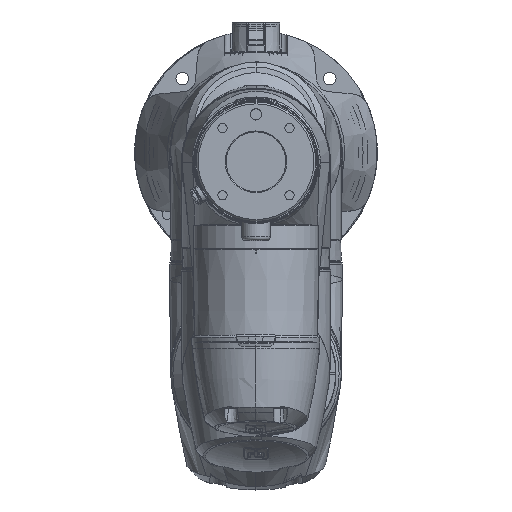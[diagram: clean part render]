
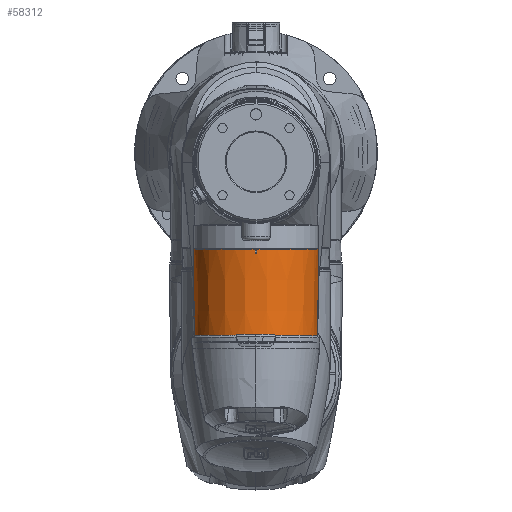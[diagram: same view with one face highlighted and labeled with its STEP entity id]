
A CAD part, top view. The second image highlights one B-rep face of the part: STEP entity #58312.
In plain terms, the highlighted conical face has half-angle 0.585 degrees and reference radius 32.5 mm.
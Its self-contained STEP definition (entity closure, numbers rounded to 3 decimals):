
#1042=CONICAL_SURFACE('',#63352,32.5,0.01);
#1344=ELLIPSE('',#63353,579.523,33.016);
#1345=ELLIPSE('',#63359,580.982,33.177);
#10089=FACE_OUTER_BOUND('',#13349,.T.);
#13349=EDGE_LOOP('',(#48651,#48652,#48653,#48654,#48655,#48656,#48657,#48658,
#48659,#48660));
#16046=CIRCLE('',#63351,32.5);
#16047=CIRCLE('',#63354,32.996);
#16048=CIRCLE('',#63355,4293.745);
#16049=CIRCLE('',#63356,32.972);
#16050=CIRCLE('',#63357,4293.712);
#16051=CIRCLE('',#63358,32.996);
#19123=LINE('',#172004,#22470);
#19124=LINE('',#172016,#22471);
#22470=VECTOR('',#74524,10.);
#22471=VECTOR('',#74535,1.);
#27017=VERTEX_POINT('',#171586);
#27018=VERTEX_POINT('',#171587);
#27135=VERTEX_POINT('',#172001);
#27136=VERTEX_POINT('',#172003);
#27137=VERTEX_POINT('',#172005);
#27138=VERTEX_POINT('',#172007);
#27139=VERTEX_POINT('',#172009);
#27140=VERTEX_POINT('',#172011);
#27141=VERTEX_POINT('',#172013);
#27142=VERTEX_POINT('',#172015);
#34682=EDGE_CURVE('',#27017,#27018,#16046,.T.);
#34795=EDGE_CURVE('',#27135,#27018,#1344,.T.);
#34796=EDGE_CURVE('',#27135,#27136,#19123,.T.);
#34797=EDGE_CURVE('',#27137,#27136,#16047,.T.);
#34798=EDGE_CURVE('',#27138,#27137,#16048,.T.);
#34799=EDGE_CURVE('',#27138,#27139,#16049,.T.);
#34800=EDGE_CURVE('',#27140,#27139,#16050,.T.);
#34801=EDGE_CURVE('',#27141,#27140,#16051,.T.);
#34802=EDGE_CURVE('',#27142,#27141,#19124,.T.);
#34803=EDGE_CURVE('',#27142,#27017,#1345,.T.);
#48651=ORIENTED_EDGE('',*,*,#34682,.T.);
#48652=ORIENTED_EDGE('',*,*,#34795,.F.);
#48653=ORIENTED_EDGE('',*,*,#34796,.T.);
#48654=ORIENTED_EDGE('',*,*,#34797,.F.);
#48655=ORIENTED_EDGE('',*,*,#34798,.F.);
#48656=ORIENTED_EDGE('',*,*,#34799,.T.);
#48657=ORIENTED_EDGE('',*,*,#34800,.F.);
#48658=ORIENTED_EDGE('',*,*,#34801,.F.);
#48659=ORIENTED_EDGE('',*,*,#34802,.F.);
#48660=ORIENTED_EDGE('',*,*,#34803,.T.);
#58312=ADVANCED_FACE('',(#10089),#1042,.T.);
#63351=AXIS2_PLACEMENT_3D('',#171606,#74417,#74418);
#63352=AXIS2_PLACEMENT_3D('',#172000,#74520,#74521);
#63353=AXIS2_PLACEMENT_3D('',#172002,#74522,#74523);
#63354=AXIS2_PLACEMENT_3D('',#172006,#74525,#74526);
#63355=AXIS2_PLACEMENT_3D('',#172008,#74527,#74528);
#63356=AXIS2_PLACEMENT_3D('',#172010,#74529,#74530);
#63357=AXIS2_PLACEMENT_3D('',#172012,#74531,#74532);
#63358=AXIS2_PLACEMENT_3D('',#172014,#74533,#74534);
#63359=AXIS2_PLACEMENT_3D('',#172017,#74536,#74537);
#74417=DIRECTION('center_axis',(0.,1.,0.));
#74418=DIRECTION('ref_axis',(0.,0.,
-1.));
#74520=DIRECTION('center_axis',(0.,1.,0.));
#74521=DIRECTION('ref_axis',(0.,0.,
1.));
#74522=DIRECTION('center_axis',(0.,0.058,
-0.998));
#74523=DIRECTION('ref_axis',(0.,-0.998,-0.058));
#74524=DIRECTION('',(0.01,1.,0.));
#74525=DIRECTION('center_axis',(0.,1.,0.));
#74526=DIRECTION('ref_axis',(0.,0.,
1.));
#74527=DIRECTION('center_axis',(0.013,-0.01,1.));
#74528=DIRECTION('ref_axis',(1.,-0.003,-0.013));
#74529=DIRECTION('center_axis',(0.,-1.,0.));
#74530=DIRECTION('ref_axis',(0.,0.,
-1.));
#74531=DIRECTION('center_axis',(-0.013,-0.01,
1.));
#74532=DIRECTION('ref_axis',(-1.,-0.003,-0.013));
#74533=DIRECTION('center_axis',(0.,1.,0.));
#74534=DIRECTION('ref_axis',(0.,0.,
1.));
#74535=DIRECTION('',(-0.01,1.,0.));
#74536=DIRECTION('center_axis',(0.,-0.058,
0.998));
#74537=DIRECTION('ref_axis',(0.,-0.998,-0.058));
#171586=CARTESIAN_POINT('',(-32.5,-244.302,431.468));
#171587=CARTESIAN_POINT('',(32.5,-244.302,431.468));
#171606=CARTESIAN_POINT('Origin',(0.,-244.302,
431.468));
#172000=CARTESIAN_POINT('Origin',(0.,-244.302,
431.468));
#172001=CARTESIAN_POINT('',(32.791,-209.802,433.468));
#172002=CARTESIAN_POINT('Origin',(0.,-142.462,
437.371));
#172003=CARTESIAN_POINT('',(32.935,-195.694,433.468));
#172004=CARTESIAN_POINT('',(32.791,-209.802,433.468));
#172005=CARTESIAN_POINT('',(0.483,-195.694,464.46));
#172006=CARTESIAN_POINT('Origin',(0.,-195.694,
431.468));
#172007=CARTESIAN_POINT('',(0.476,-198.002,464.437));
#172008=CARTESIAN_POINT('Origin',(-4292.862,-184.534,521.971));
#172009=CARTESIAN_POINT('',(-0.476,-198.002,464.437));
#172010=CARTESIAN_POINT('Origin',(0.,-198.002,
431.468));
#172011=CARTESIAN_POINT('',(-0.483,-195.694,464.46));
#172012=CARTESIAN_POINT('Origin',(4292.831,-184.533,521.851));
#172013=CARTESIAN_POINT('',(-32.935,-195.694,433.468));
#172014=CARTESIAN_POINT('Origin',(0.,-195.694,
431.468));
#172015=CARTESIAN_POINT('',(-32.791,-209.802,433.468));
#172016=CARTESIAN_POINT('',(-32.865,-202.552,433.468));
#172017=CARTESIAN_POINT('Origin',(0.161,-142.045,437.396));
